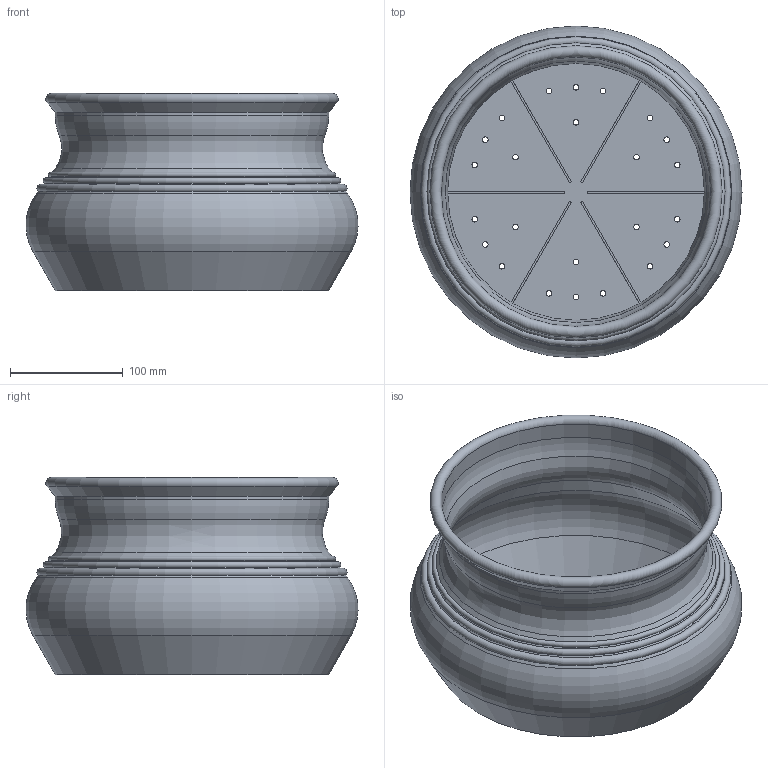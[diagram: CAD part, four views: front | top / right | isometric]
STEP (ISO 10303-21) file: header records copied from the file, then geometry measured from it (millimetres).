
FILE_DESCRIPTION(/* description */ (''),/* implementation_level */ '2;1');
FILE_NAME(/* name */ 'LR2406-S17-H175-D300_step.step',/* time_stamp */ '2024-02-01T11:03:25+01:00',/* author */ (''),/* organization */ (''),/* preprocessor_version */ 'ST-DEVELOPER v20',/* originating_system */ 'Autodesk Translation Framework v12.20.1.177',/* authorisation */ '');
FILE_SCHEMA (('AUTOMOTIVE_DESIGN { 1 0 10303 214 3 1 1 }'));
Length unit declared in the file: millimetre
Products named in the file (1): LR2406-S17-H175-D300
Bounding box: 294.69 x 294.69 x 175 mm (x, y, z)
Volume: 448973.9 mm3; surface area: 420282.2 mm2
Topology: 1 solids, 1 shells, 70 faces, 185 edges, 117 vertices
Faces by surface type: cylinder 32, plane 20, torus 10, cone 8
Full cylindrical faces by diameter (mm): 5 x24, 239.36 x1, 242.72 x1
Entity records: 2336 total; most frequent: DIRECTION 430, CARTESIAN_POINT 373, ORIENTED_EDGE 370, EDGE_CURVE 185, AXIS2_PLACEMENT_3D 174, EDGE_LOOP 118, VERTEX_POINT 117, CIRCLE 103
